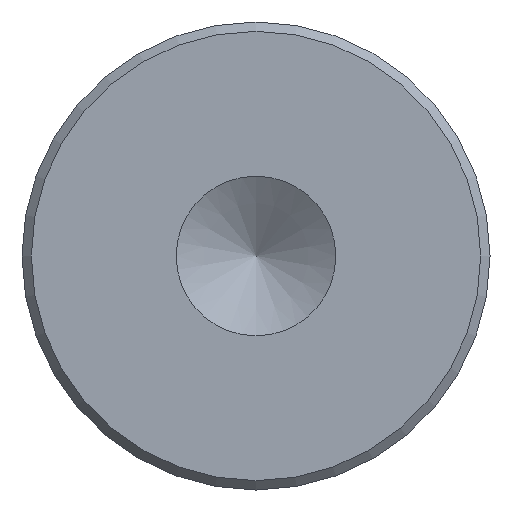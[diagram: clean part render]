
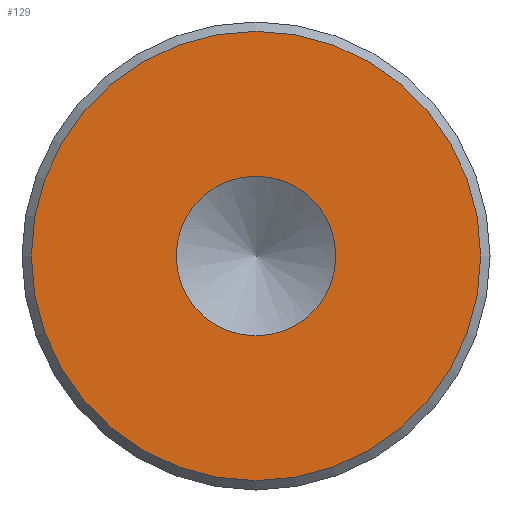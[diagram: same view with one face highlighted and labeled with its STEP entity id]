
A CAD part, front view. The second image highlights one B-rep face of the part: STEP entity #129.
In plain terms, the highlighted planar face has unit normal (0, -1, 0).
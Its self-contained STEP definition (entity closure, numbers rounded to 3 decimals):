
#15=FACE_BOUND('',#38,.T.);
#17=PLANE('',#159);
#28=FACE_OUTER_BOUND('',#37,.T.);
#37=EDGE_LOOP('',(#111));
#38=EDGE_LOOP('',(#112));
#57=CIRCLE('',#149,4.263);
#60=CIRCLE('',#155,12.);
#66=VERTEX_POINT('',#213);
#70=VERTEX_POINT('',#226);
#76=EDGE_CURVE('',#66,#66,#57,.T.);
#82=EDGE_CURVE('',#70,#70,#60,.T.);
#111=ORIENTED_EDGE('',*,*,#82,.F.);
#112=ORIENTED_EDGE('',*,*,#76,.T.);
#129=ADVANCED_FACE('',(#28,#15),#17,.F.);
#149=AXIS2_PLACEMENT_3D('',#214,#172,#173);
#155=AXIS2_PLACEMENT_3D('',#227,#187,#188);
#159=AXIS2_PLACEMENT_3D('',#235,#197,#198);
#172=DIRECTION('center_axis',(0.,1.,0.));
#173=DIRECTION('ref_axis',(0.,0.,1.));
#187=DIRECTION('center_axis',(0.,1.,0.));
#188=DIRECTION('ref_axis',(-1.,0.,0.));
#197=DIRECTION('center_axis',(0.,1.,0.));
#198=DIRECTION('ref_axis',(-1.,0.,0.));
#213=CARTESIAN_POINT('',(0.,-125.,-4.263));
#214=CARTESIAN_POINT('Origin',(0.,-125.,0.));
#226=CARTESIAN_POINT('',(12.,-125.,0.));
#227=CARTESIAN_POINT('Origin',(0.,-125.,0.));
#235=CARTESIAN_POINT('Origin',(0.,-125.,0.));
